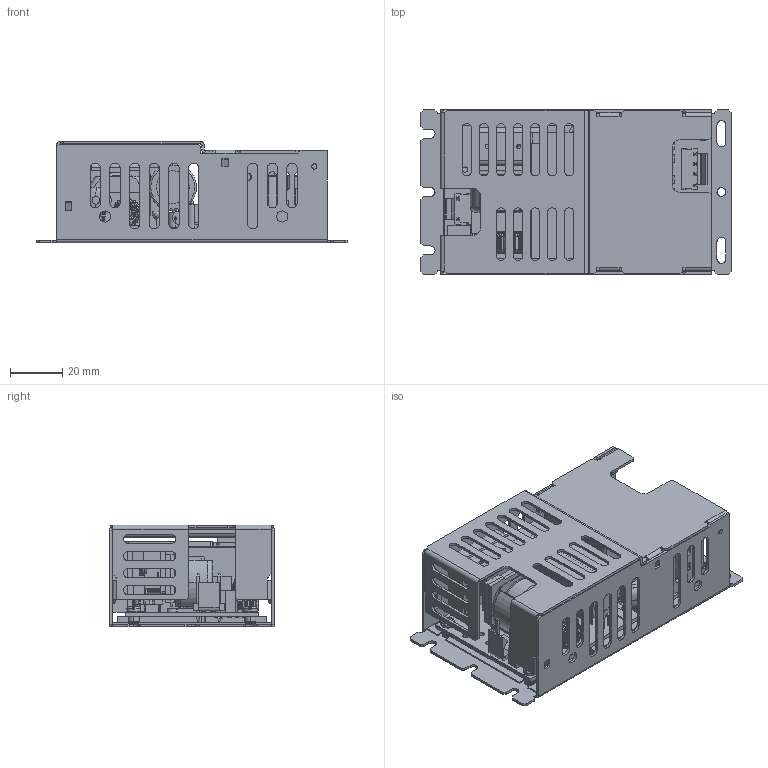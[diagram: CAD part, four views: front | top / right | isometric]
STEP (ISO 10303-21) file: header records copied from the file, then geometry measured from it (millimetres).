
FILE_DESCRIPTION (( 'STEP AP214' ), '1' );
FILE_NAME ('RACM130E-K_ENC_3D_20210908.stp', '2021-09-09T07:14:22', ( '' ), ( '' ), 'SwSTEP 2.0', 'SolidWorks 2019', '' );
FILE_SCHEMA (( 'AUTOMOTIVE_DESIGN' ));
Length unit declared in the file: millimetre
Products named in the file (1): RACM130E-K_ENC_3D_20210908
Bounding box: 118.3 x 62.7 x 38.7 mm (x, y, z)
Volume: 95691.8 mm3; surface area: 110209.5 mm2
Topology: 86 solids, 86 shells, 3175 faces, 7786 edges, 4783 vertices
Faces by surface type: plane 1294, cylinder 1080, torus 688, bspline 78, cone 35
Entity records: 141933 total; most frequent: CARTESIAN_POINT 29002, DIRECTION 16994, ORIENTED_EDGE 15552, EDGE_CURVE 7776, AXIS2_PLACEMENT_3D 6480, VERTEX_POINT 4783, VECTOR 4034, LINE 4034
